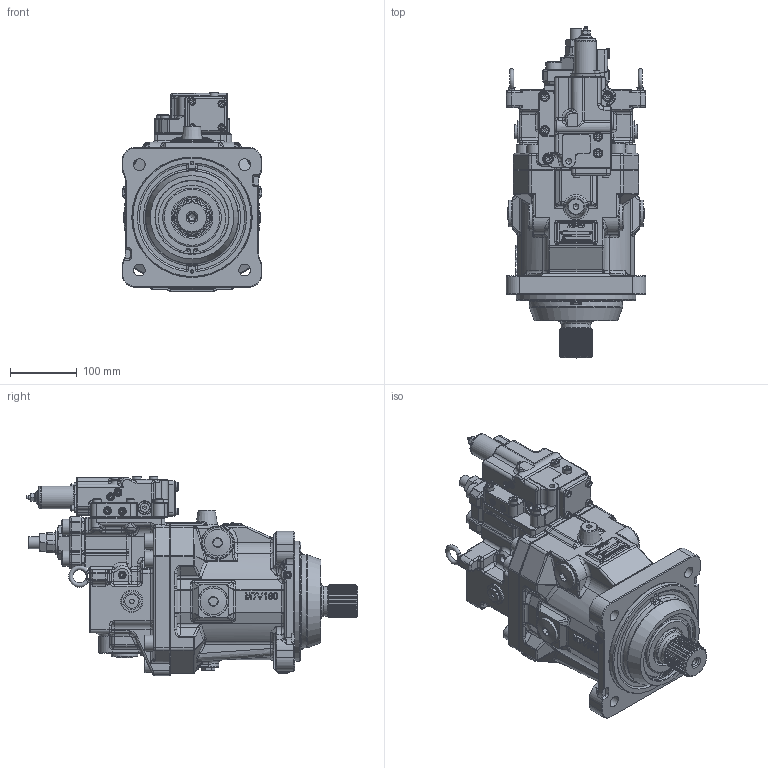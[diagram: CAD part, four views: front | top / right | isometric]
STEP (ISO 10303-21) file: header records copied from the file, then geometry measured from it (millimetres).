
FILE_DESCRIPTION(/* description */ (''),/* implementation_level */ '2;1');
FILE_NAME(/* name */ 'M7V160AC48-AA1E#XXXN-01.stp',/* time_stamp */ '2025-12-17T13:56:15Z',/* author */ ('Sjolliffe'),/* organization */ (''),/* preprocessor_version */ 'ST-DEVELOPER v20',/* originating_system */ 'Autodesk Inventor 2024',/* authorisation */ '');
FILE_SCHEMA (('CONFIG_CONTROL_DESIGN'));
Products named in the file (1): M7V160AC48-AA1E#XXXN-01
Bounding box: 210 x 498.3 x 300 mm (x, y, z)
Volume: 11260568.8 mm3; surface area: 498097.3 mm2
Topology: 1 solids, 1 shells, 4109 faces, 10458 edges, 6451 vertices
Faces by surface type: plane 1593, cylinder 1335, bspline 565, cone 336, torus 197, sphere 83
Full cylindrical faces by diameter (mm): 1.44 x2, 3 x2, 4.5 x1, 4.917 x2, 6 x2, 8.376 x2, 8.5 x2, 9.4 x19, 10 x5, 10.106 x1, 11 x4, 11.835 x8, 12 x17, 13 x6, 14 x6, 16 x1, 17.5 x5, 18 x1, 19 x1, 21 x3, 24 x13, 25 x2, 26 x12, 31.2 x1, 32 x2, 33 x2, 34.3 x1, 36 x1, 40 x5, 44.6 x1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
Entity records: 146852 total; most frequent: CARTESIAN_POINT 47127, ORIENTED_EDGE 20634, DIRECTION 19580, EDGE_CURVE 10317, AXIS2_PLACEMENT_3D 7252, VERTEX_POINT 6445, LINE 5076, VECTOR 5076
